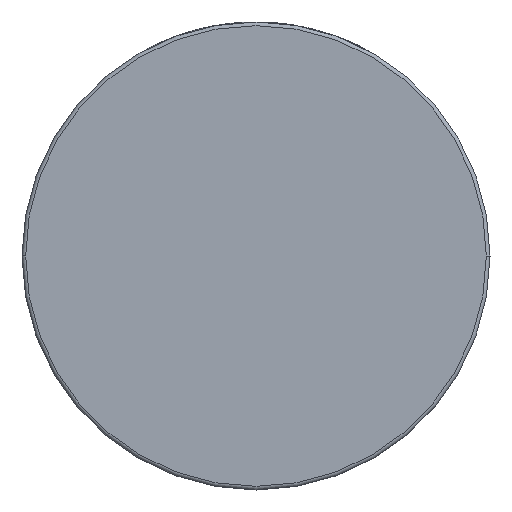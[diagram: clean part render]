
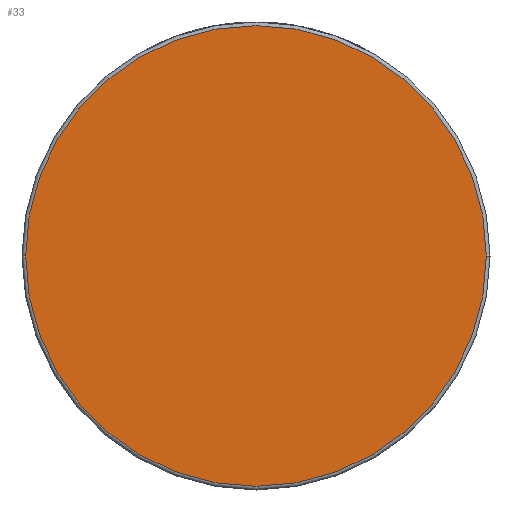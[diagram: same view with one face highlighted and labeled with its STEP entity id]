
A CAD part, front view. The second image highlights one B-rep face of the part: STEP entity #33.
In plain terms, the highlighted planar face has unit normal (0, -1, 0).
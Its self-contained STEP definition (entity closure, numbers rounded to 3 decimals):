
#33 = ADVANCED_FACE ( 'NONE', ( #291 ), #3771, .T. ) ;
#273 = EDGE_LOOP ( 'NONE', ( #833, #3362 ) ) ;
#291 = FACE_OUTER_BOUND ( 'NONE', #273, .T. ) ;
#657 = DIRECTION ( 'NONE',  ( 1., 0., 0. ) ) ;
#833 = ORIENTED_EDGE ( 'NONE', *, *, #2418, .T. ) ;
#890 = CIRCLE ( 'NONE', #1545, 63. ) ;
#984 = CIRCLE ( 'NONE', #3598, 63. ) ;
#1028 = DIRECTION ( 'NONE',  ( 0., -1., 0. ) ) ;
#1080 = DIRECTION ( 'NONE',  ( 1., 0., 0. ) ) ;
#1267 = CARTESIAN_POINT ( 'NONE',  ( 63., -33., 0. ) ) ;
#1348 = DIRECTION ( 'NONE',  ( 0., -1., 0. ) ) ;
#1545 = AXIS2_PLACEMENT_3D ( 'NONE', #2702, #1028, #2402 ) ;
#1771 = VERTEX_POINT ( 'NONE', #1267 ) ;
#2121 = EDGE_CURVE ( 'NONE', #3039, #1771, #890, .T. ) ;
#2402 = DIRECTION ( 'NONE',  ( 1., 0., 0. ) ) ;
#2418 = EDGE_CURVE ( 'NONE', #1771, #3039, #984, .T. ) ;
#2454 = DIRECTION ( 'NONE',  ( 0., -1., 0. ) ) ;
#2702 = CARTESIAN_POINT ( 'NONE',  ( 0., -33., 0. ) ) ;
#2822 = CARTESIAN_POINT ( 'NONE',  ( -63., -33., 0. ) ) ;
#3039 = VERTEX_POINT ( 'NONE', #2822 ) ;
#3089 = CARTESIAN_POINT ( 'NONE',  ( 64., -33., 0. ) ) ;
#3362 = ORIENTED_EDGE ( 'NONE', *, *, #2121, .T. ) ;
#3598 = AXIS2_PLACEMENT_3D ( 'NONE', #3828, #2454, #1080 ) ;
#3771 = PLANE ( 'NONE',  #3926 ) ;
#3828 = CARTESIAN_POINT ( 'NONE',  ( 0., -33., 0. ) ) ;
#3926 = AXIS2_PLACEMENT_3D ( 'NONE', #3089, #1348, #657 ) ;
